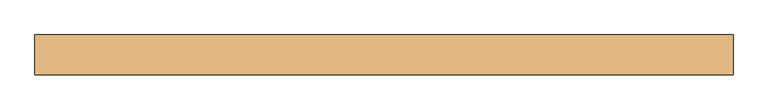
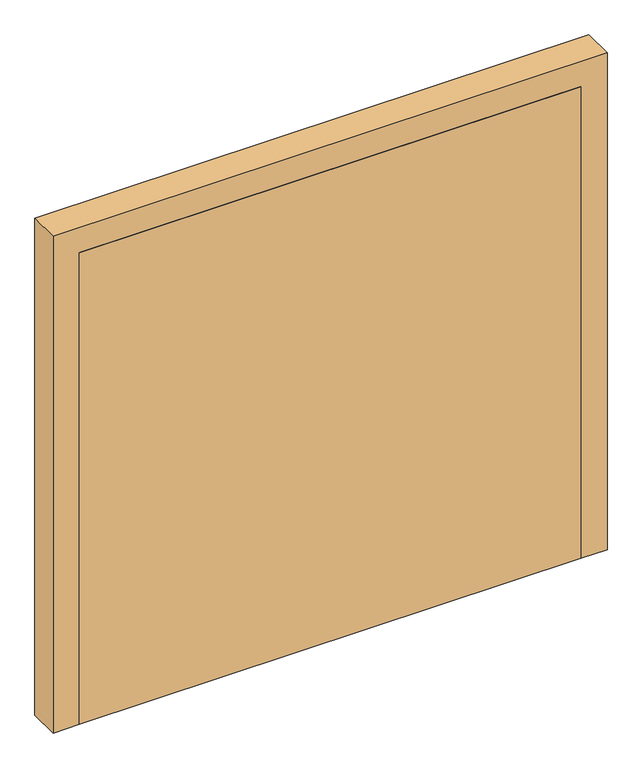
"""IFC4 building model written with IfcOpenShell, lengths in millimetres: door geometry, LOC_Pardörr : LOC_Pardörr Karm = 100."""

from ifc_helpers import new_model, si_unit, frame, origin, origin_with_axes, place, context, project, spatial, polyline, outline, extrude, source, transform, mapped, element, save


def door_583d42d9(model_context):
    return source(origin(), model_context, "Body", "SweptSolid", [
        extrude(outline(polyline([(955.0, -10.0), (955.0, -60.0), (-955.0, -60.0), (-955.0, -10.0), (955.0, -10.0)])), origin_with_axes(), (0.0, 0.0, 1.0), 1900.0),
        extrude(outline(polyline([(2000.0, -1055.0), (0.0, -1055.0), (0.0, -955.0), (1900.0, -955.0), (1900.0, 955.0), (0.0, 955.0), (0.0, 1055.0), (2000.0, 1055.0), (2000.0, -1055.0)])), frame((0.0, -60.0, 0.0), z_axis=(0.0, 1.0, 0.0), x_axis=(0.0, 0.0, 1.0)), (0.0, 0.0, 1.0), 120.0),
    ])


if __name__ == "__main__":
    model = new_model("IFC4")
    model_context = context("Model", 3, world=origin())
    ifc_project = project(units=[si_unit("LENGTHUNIT", "METRE", prefix="MILLI")], contexts=[model_context])
    site = spatial("IfcSite", under=ifc_project)
    building = spatial("IfcBuilding", under=site)
    placement = place(None, origin())
    door_shape = door_583d42d9(model_context)
    element("IfcDoor", 1, ObjectType="LOC_Pardörr : LOC_Pardörr Karm = 100", at=placement, inside=building, context=model_context, shape_type="MappedRepresentation", body=[
        mapped(door_shape, transform((0.0, 0.0, 0.0), x_axis=(1.0, 0.0, 0.0), y_axis=(0.0, 1.0, 0.0), z_axis=(0.0, 0.0, 1.0))),
    ])
    save(model, "model.ifc")
